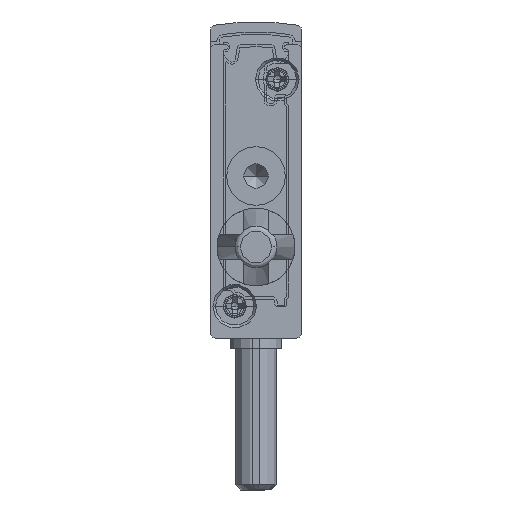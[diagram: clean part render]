
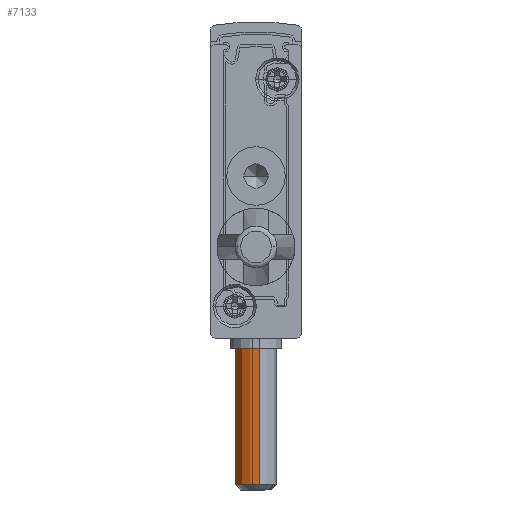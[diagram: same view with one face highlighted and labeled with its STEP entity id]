
A CAD part, front view. The second image highlights one B-rep face of the part: STEP entity #7133.
In plain terms, the highlighted cylindrical face has radius 2 mm (diameter 4 mm), a partial arc.
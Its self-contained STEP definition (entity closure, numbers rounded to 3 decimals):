
#552 = AXIS2_PLACEMENT_3D ( 'NONE', #4349, #28271, #30917 ) ;
#1162 = VERTEX_POINT ( 'NONE', #28834 ) ;
#2343 = CARTESIAN_POINT ( 'NONE',  ( -4.199, 2189.523, -15. ) ) ;
#2367 = EDGE_CURVE ( 'NONE', #6017, #24498, #25155, .T. ) ;
#2393 = DIRECTION ( 'NONE',  ( 0., 0., 1. ) ) ;
#2501 = CARTESIAN_POINT ( 'NONE',  ( -4.5, 2191.5, -14.5 ) ) ;
#2891 = DIRECTION ( 'NONE',  ( 0., 0., 1. ) ) ;
#4349 = CARTESIAN_POINT ( 'NONE',  ( -4.5, 2191.5, -1. ) ) ;
#6017 = VERTEX_POINT ( 'NONE', #24795 ) ;
#7133 = ADVANCED_FACE ( 'NONE', ( #7355 ), #31275, .T. ) ;
#7355 = FACE_OUTER_BOUND ( 'NONE', #12512, .T. ) ;
#8062 = LINE ( 'NONE', #13390, #14211 ) ;
#10303 = DIRECTION ( 'NONE',  ( 0., 0., 1. ) ) ;
#10455 = DIRECTION ( 'NONE',  ( -0.15, 0.989, 0. ) ) ;
#12512 = EDGE_LOOP ( 'NONE', ( #23180, #19847, #31519, #16807 ) ) ;
#13390 = CARTESIAN_POINT ( 'NONE',  ( -4.801, 2193.477, -15. ) ) ;
#13806 = AXIS2_PLACEMENT_3D ( 'NONE', #2501, #2393, #20868 ) ;
#13873 = CIRCLE ( 'NONE', #552, 2. ) ;
#14211 = VECTOR ( 'NONE', #2891, 1000. ) ;
#16130 = CIRCLE ( 'NONE', #13806, 2. ) ;
#16807 = ORIENTED_EDGE ( 'NONE', *, *, #29371, .F. ) ;
#16937 = CARTESIAN_POINT ( 'NONE',  ( -4.199, 2189.523, -1. ) ) ;
#18685 = VERTEX_POINT ( 'NONE', #28553 ) ;
#19847 = ORIENTED_EDGE ( 'NONE', *, *, #2367, .T. ) ;
#20640 = DIRECTION ( 'NONE',  ( 0., 0., 1. ) ) ;
#20868 = DIRECTION ( 'NONE',  ( 0.15, -0.989, 0. ) ) ;
#23180 = ORIENTED_EDGE ( 'NONE', *, *, #31382, .T. ) ;
#24498 = VERTEX_POINT ( 'NONE', #16937 ) ;
#24665 = EDGE_CURVE ( 'NONE', #24498, #1162, #13873, .T. ) ;
#24795 = CARTESIAN_POINT ( 'NONE',  ( -4.199, 2189.523, -14.5 ) ) ;
#25155 = LINE ( 'NONE', #2343, #34220 ) ;
#28271 = DIRECTION ( 'NONE',  ( 0., 0., -1. ) ) ;
#28553 = CARTESIAN_POINT ( 'NONE',  ( -4.801, 2193.477, -14.5 ) ) ;
#28834 = CARTESIAN_POINT ( 'NONE',  ( -4.801, 2193.477, -1. ) ) ;
#28980 = AXIS2_PLACEMENT_3D ( 'NONE', #33611, #20640, #10455 ) ;
#29371 = EDGE_CURVE ( 'NONE', #18685, #1162, #8062, .T. ) ;
#30917 = DIRECTION ( 'NONE',  ( 0.15, -0.989, 0. ) ) ;
#31275 = CYLINDRICAL_SURFACE ( 'NONE', #28980, 2. ) ;
#31382 = EDGE_CURVE ( 'NONE', #18685, #6017, #16130, .T. ) ;
#31519 = ORIENTED_EDGE ( 'NONE', *, *, #24665, .T. ) ;
#33611 = CARTESIAN_POINT ( 'NONE',  ( -4.5, 2191.5, -15. ) ) ;
#34220 = VECTOR ( 'NONE', #10303, 1000. ) ;
